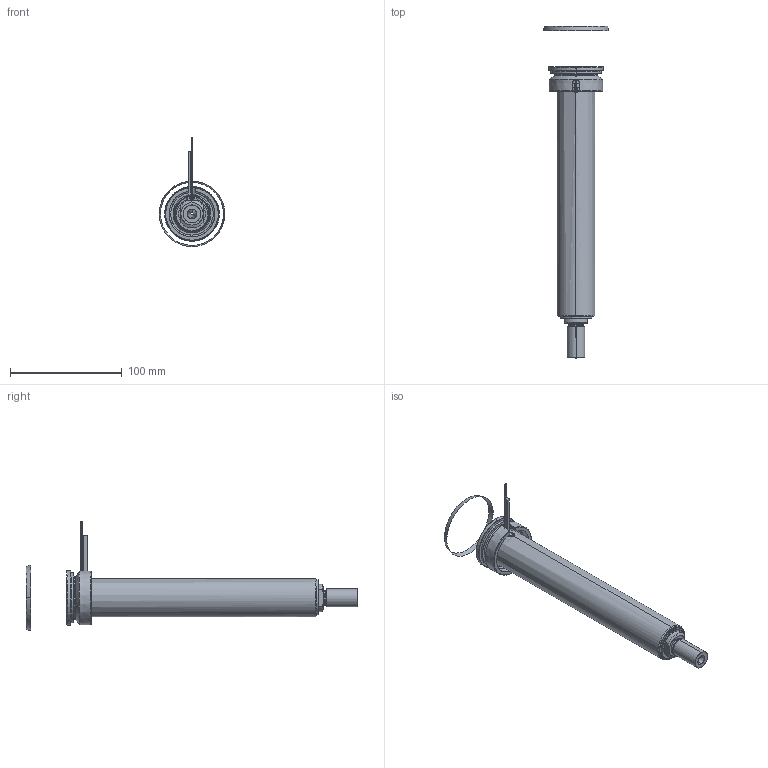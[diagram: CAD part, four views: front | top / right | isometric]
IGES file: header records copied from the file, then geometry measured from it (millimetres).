
Start section: SolidWorks IGES file using analytic representation for surfaces
Global section: file name: C:\Documents and Settings\ws-20\Desktop\TEMPORANEA\UGBE5005-S-A-P-5 [Ød-2.5 P-25 ØC-12].IGS; native system: SolidWorks 2012; preprocessor: SolidWorks 2012; author: ws-20; date: 120306.150459; units: millimetre
Bounding box: 58.79 x 297.44 x 98.01 mm (x, y, z)
Surface area: 90125.8 mm2 (no closed solid volume)
Topology: 0 solids, 0 shells, 108 faces, 2092 edges, 2092 vertices
Faces by surface type: revolution 67, bspline 41
